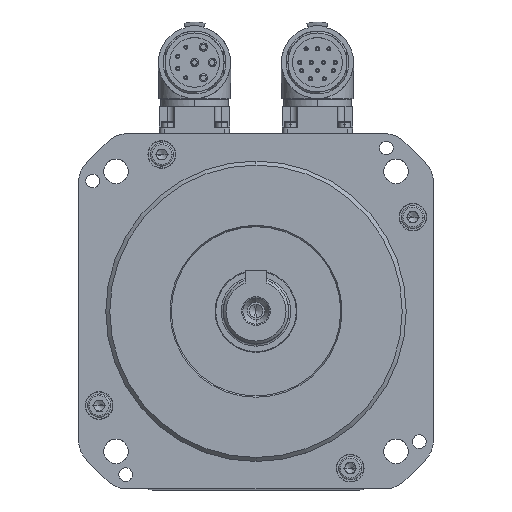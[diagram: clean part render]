
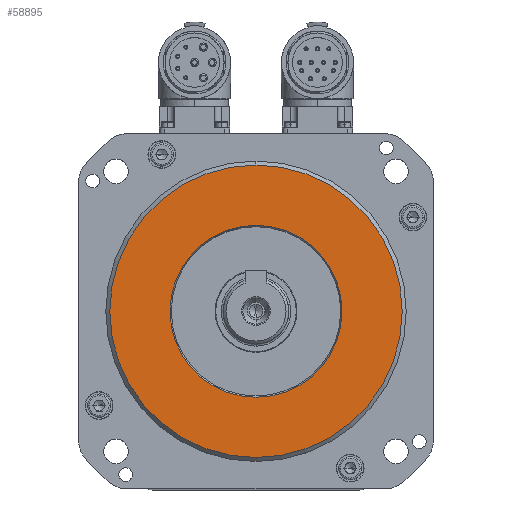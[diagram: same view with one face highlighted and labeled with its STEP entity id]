
A CAD part, top view. The second image highlights one B-rep face of the part: STEP entity #58895.
In plain terms, the highlighted planar face has unit normal (0, 0, 1).
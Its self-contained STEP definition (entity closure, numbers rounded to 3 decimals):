
#306 = AXIS2_PLACEMENT_3D ( 'NONE', #16008, #39821, #5858 ) ;
#1193 = CARTESIAN_POINT ( 'NONE',  ( 0., -31.481, 66.8 ) ) ;
#1682 = CARTESIAN_POINT ( 'NONE',  ( 0., 0., 66.8 ) ) ;
#4830 = DIRECTION ( 'NONE',  ( 0., 0., 1. ) ) ;
#5725 = DIRECTION ( 'NONE',  ( 0., -1., 0. ) ) ;
#5858 = DIRECTION ( 'NONE',  ( 0., -1., 0. ) ) ;
#6081 = EDGE_LOOP ( 'NONE', ( #37298, #23362 ) ) ;
#6746 = DIRECTION ( 'NONE',  ( 0., -1., 0. ) ) ;
#9663 = DIRECTION ( 'NONE',  ( 0., -1., 0. ) ) ;
#10255 = CARTESIAN_POINT ( 'NONE',  ( 0., -53.54, 66.8 ) ) ;
#13842 = CIRCLE ( 'NONE', #50329, 31.481 ) ;
#14330 = PLANE ( 'NONE',  #31817 ) ;
#16008 = CARTESIAN_POINT ( 'NONE',  ( 0., 0., 66.8 ) ) ;
#19399 = CARTESIAN_POINT ( 'NONE',  ( 0., 0., 66.8 ) ) ;
#20283 = EDGE_CURVE ( 'NONE', #21761, #32477, #35085, .T. ) ;
#21761 = VERTEX_POINT ( 'NONE', #1193 ) ;
#23362 = ORIENTED_EDGE ( 'NONE', *, *, #20283, .F. ) ;
#23545 = AXIS2_PLACEMENT_3D ( 'NONE', #29362, #57993, #5725 ) ;
#26722 = DIRECTION ( 'NONE',  ( 0., 0., 1. ) ) ;
#27498 = EDGE_LOOP ( 'NONE', ( #45195, #61590 ) ) ;
#29362 = CARTESIAN_POINT ( 'NONE',  ( 0., 0., 66.8 ) ) ;
#30794 = DIRECTION ( 'NONE',  ( 0., 0., 1. ) ) ;
#31817 = AXIS2_PLACEMENT_3D ( 'NONE', #19399, #4830, #9663 ) ;
#32477 = VERTEX_POINT ( 'NONE', #35541 ) ;
#35085 = CIRCLE ( 'NONE', #23545, 31.481 ) ;
#35541 = CARTESIAN_POINT ( 'NONE',  ( 0., 31.481, 66.8 ) ) ;
#37298 = ORIENTED_EDGE ( 'NONE', *, *, #44667, .F. ) ;
#39821 = DIRECTION ( 'NONE',  ( 0., 0., 1. ) ) ;
#44405 = VERTEX_POINT ( 'NONE', #10255 ) ;
#44667 = EDGE_CURVE ( 'NONE', #32477, #21761, #13842, .T. ) ;
#45195 = ORIENTED_EDGE ( 'NONE', *, *, #45702, .T. ) ;
#45702 = EDGE_CURVE ( 'NONE', #54053, #44405, #55537, .T. ) ;
#46658 = CIRCLE ( 'NONE', #51407, 53.54 ) ;
#46936 = DIRECTION ( 'NONE',  ( 0., -1., 0. ) ) ;
#47967 = FACE_BOUND ( 'NONE', #6081, .T. ) ;
#48753 = FACE_OUTER_BOUND ( 'NONE', #27498, .T. ) ;
#50329 = AXIS2_PLACEMENT_3D ( 'NONE', #55553, #26722, #46936 ) ;
#51407 = AXIS2_PLACEMENT_3D ( 'NONE', #1682, #30794, #6746 ) ;
#51897 = EDGE_CURVE ( 'NONE', #44405, #54053, #46658, .T. ) ;
#54053 = VERTEX_POINT ( 'NONE', #57665 ) ;
#55537 = CIRCLE ( 'NONE', #306, 53.54 ) ;
#55553 = CARTESIAN_POINT ( 'NONE',  ( 0., 0., 66.8 ) ) ;
#57665 = CARTESIAN_POINT ( 'NONE',  ( 0., 53.54, 66.8 ) ) ;
#57993 = DIRECTION ( 'NONE',  ( 0., 0., 1. ) ) ;
#58895 = ADVANCED_FACE ( 'NONE', ( #47967, #48753 ), #14330, .T. ) ;
#61590 = ORIENTED_EDGE ( 'NONE', *, *, #51897, .T. ) ;
